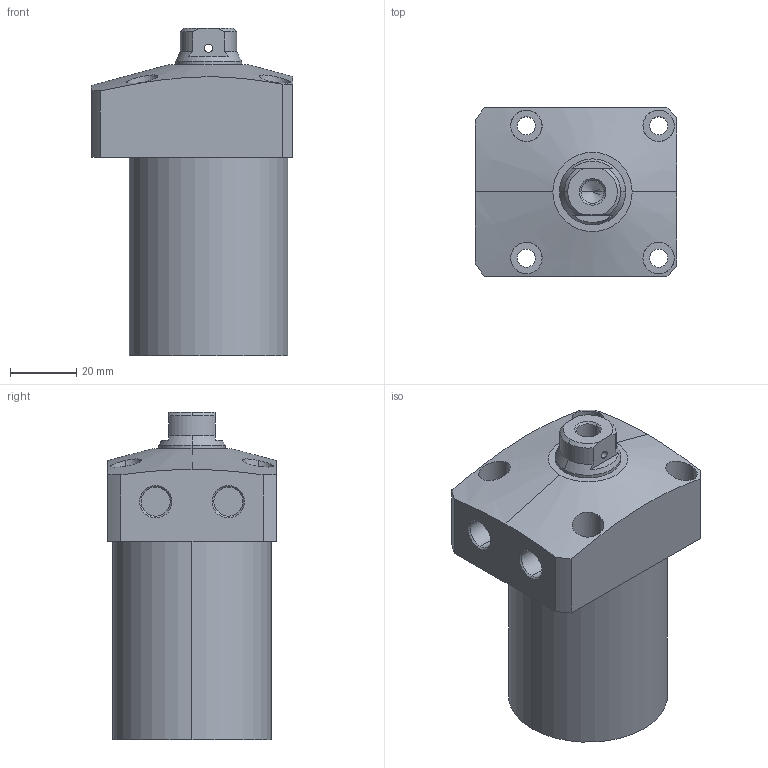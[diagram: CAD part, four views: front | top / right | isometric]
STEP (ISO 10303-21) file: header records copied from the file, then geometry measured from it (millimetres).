
FILE_DESCRIPTION (( 'STEP AP203' ), '1' );
FILE_NAME ('CLL-0480-CB-50.STEP', '2017-05-09T03:12:02', ( '' ), ( '' ), 'SwSTEP 2.0', 'SolidWorks 2015', '' );
FILE_SCHEMA (( 'CONFIG_CONTROL_DESIGN' ));
Length unit declared in the file: millimetre
Products named in the file (1): CLL-0480-CB-50
Bounding box: 61 x 51 x 99 mm (x, y, z)
Volume: 183143.3 mm3; surface area: 23649.6 mm2
Topology: 1 solids, 1 shells, 76 faces, 181 edges, 116 vertices
Faces by surface type: cylinder 39, plane 22, cone 15
Entity records: 2695 total; most frequent: CARTESIAN_POINT 818, DIRECTION 386, ORIENTED_EDGE 358, EDGE_CURVE 179, AXIS2_PLACEMENT_3D 158, VERTEX_POINT 116, EDGE_LOOP 99, CIRCLE 81
